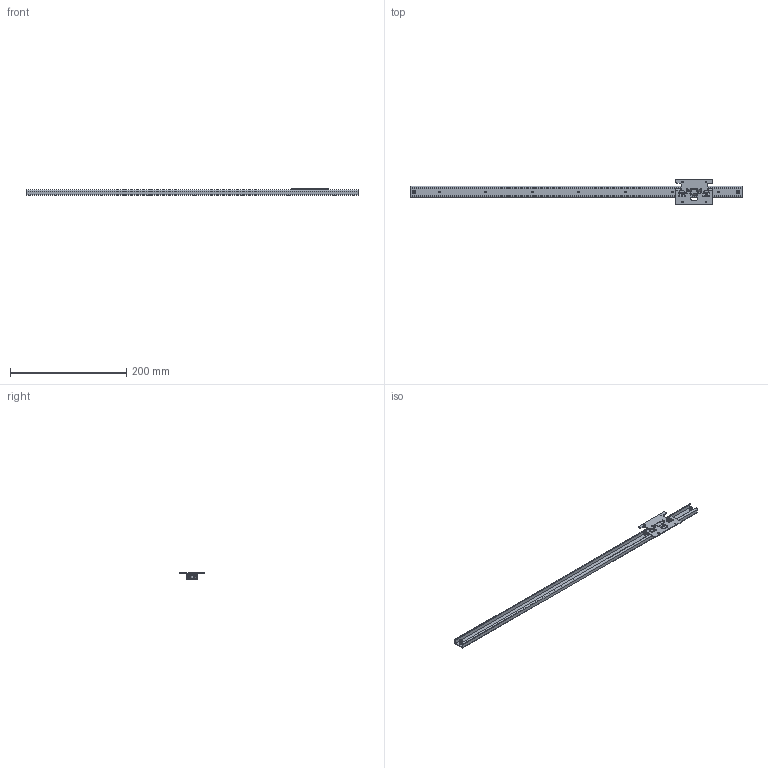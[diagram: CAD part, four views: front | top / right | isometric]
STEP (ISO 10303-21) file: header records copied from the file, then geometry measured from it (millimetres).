
FILE_DESCRIPTION((''),'1');
FILE_NAME('C:/Users/t-inoue/Desktop/20SW570SSN.stp','2016-12-01T03:01:56',(''),(''),'Spatial Interop R21 SP3','Kubotek KeyCreator 2011 V10.0.2 (22737)',' ');
FILE_SCHEMA(('automotive_design'));
Length unit declared in the file: millimetre
Products named in the file (344): Unnamed[1]
Bounding box: 570 x 42 x 12 mm (x, y, z)
Surface area: 51440.7 mm2 (no closed solid volume)
Topology: 0 solids, 344 shells, 344 faces, 1503 edges, 1406 vertices
Faces by surface type: plane 172, cylinder 123, cone 48, sphere 1
Full cylindrical faces by diameter (mm): 1.6 x1, 2.5 x6, 3.2 x13, 3.5 x1, 4 x7, 5 x13, 5.5 x2, 7 x6
Entity records: 29718 total; most frequent: CARTESIAN_POINT 3464, DIRECTION 3425, ORIENTED_EDGE 1388, EDGE_CURVE 1388, VERTEX_POINT 1388, PRESENTATION_STYLE_ASSIGNMENT 1376, COLOUR_RGB 1376, AXIS2_PLACEMENT_3D 1349
